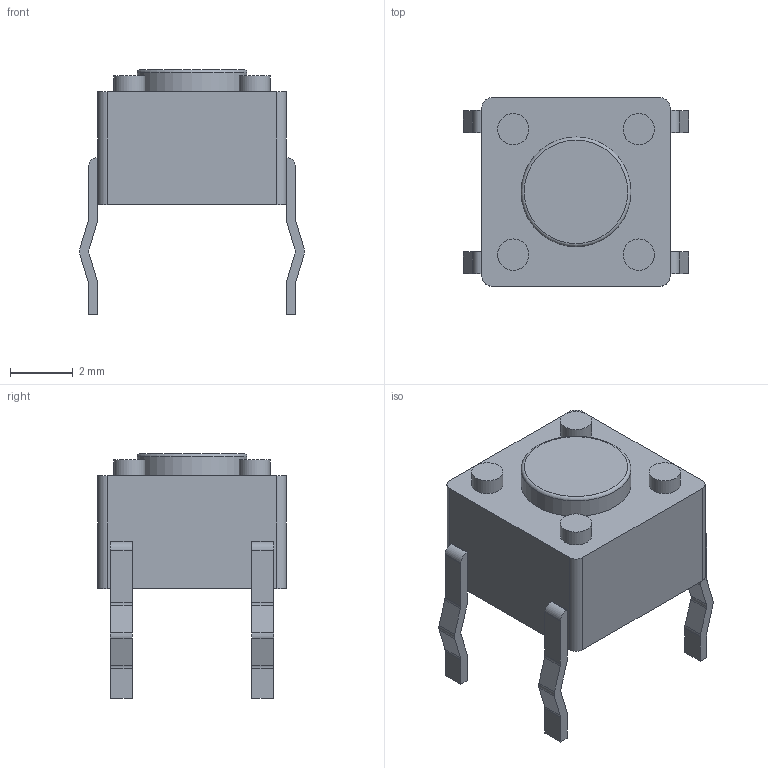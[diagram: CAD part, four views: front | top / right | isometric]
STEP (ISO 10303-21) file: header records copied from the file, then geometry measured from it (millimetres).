
FILE_DESCRIPTION(/* description */ ('STEP AP242 Edition 2','CAx-IF Rec.Pracs.---Representation and Presentation of Product Manufacturing Information (PMI)---4.0---2014-10-13','CAx-IF Rec.Pracs.---3D Tessellated Geometry---0.4---2014-09-14','2;1','CAx-IF Rec.Pracs.---User Defined Attributes---1.5---2016-08-15'),/* implementation_level */ '2;1');
FILE_NAME(/* name */ 'Part Studio 1 - Surface 0',/* time_stamp */ '2026-11-25T23:28:51Z',/* author */ (''),/* organization */ (''),/* preprocessor_version */ 'ST-DEVELOPER v20',/* originating_system */ 'ONSHAPE BY PTC INC, 1.224',/* authorisation */ ' ');
FILE_SCHEMA (('AP242_MANAGED_MODEL_BASED_3D_ENGINEERING_MIM_LF { 1 0 10303 442 3 1 4 }'));
Length unit declared in the file: metre
Products named in the file (1): SW_PUSH_6mm
Bounding box: 7.17 x 6 x 7.8 mm (x, y, z)
Volume: 141.8 mm3; surface area: 203.1 mm2
Topology: 1 solids, 1 shells, 97 faces, 261 edges, 171 vertices
Faces by surface type: plane 59, cylinder 37, torus 1
Full cylindrical faces by diameter (mm): 1 x4, 3.5 x1
Entity records: 3107 total; most frequent: DIRECTION 526, CARTESIAN_POINT 524, ORIENTED_EDGE 510, EDGE_CURVE 255, LINE 180, VECTOR 180, AXIS2_PLACEMENT_3D 173, VERTEX_POINT 171
